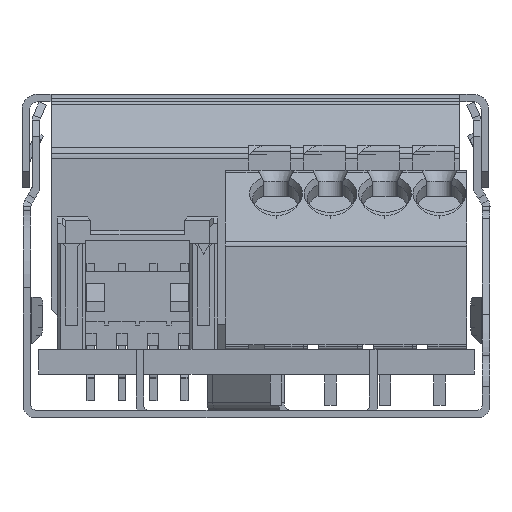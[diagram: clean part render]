
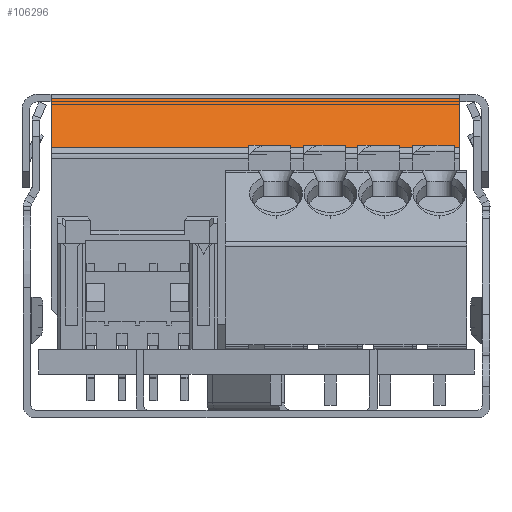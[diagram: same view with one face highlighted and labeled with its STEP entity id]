
A CAD part, front view. The second image highlights one B-rep face of the part: STEP entity #106296.
In plain terms, the highlighted planar face has unit normal (0, -0.707, 0.707).
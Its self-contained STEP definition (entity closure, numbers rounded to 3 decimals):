
#102146 = PLANE('',#102147);
#102147 = AXIS2_PLACEMENT_3D('',#102148,#102149,#102150);
#102148 = CARTESIAN_POINT('',(92.34,19.758,
    235.981));
#102149 = DIRECTION('',(1.,0.,0.));
#102150 = DIRECTION('',(0.,1.,0.));
#103388 = CYLINDRICAL_SURFACE('',#103389,1.);
#103389 = AXIS2_PLACEMENT_3D('',#103390,#103391,#103392);
#103390 = CARTESIAN_POINT('',(92.34,19.763,
    235.785));
#103391 = DIRECTION('',(1.,0.,0.));
#103392 = DIRECTION('',(0.,1.,0.));
#103416 = PLANE('',#103417);
#103417 = AXIS2_PLACEMENT_3D('',#103418,#103419,#103420);
#103418 = CARTESIAN_POINT('',(118.61,19.758,
    235.981));
#103419 = DIRECTION('',(1.,0.,0.));
#103420 = DIRECTION('',(0.,1.,0.));
#105155 = VERTEX_POINT('',#105156);
#105156 = CARTESIAN_POINT('',(92.34,15.899,
    233.335));
#105175 = CYLINDRICAL_SURFACE('',#105176,1.);
#105176 = AXIS2_PLACEMENT_3D('',#105177,#105178,#105179);
#105177 = CARTESIAN_POINT('',(118.61,16.606,
    232.628));
#105178 = DIRECTION('',(-1.,0.,0.));
#105179 = DIRECTION('',(0.,0.,1.));
#105187 = EDGE_CURVE('',#105155,#105188,#105190,.T.);
#105188 = VERTEX_POINT('',#105189);
#105189 = CARTESIAN_POINT('',(92.34,19.056,
    236.492));
#105190 = SURFACE_CURVE('',#105191,(#105195,#105202),.PCURVE_S1.);
#105191 = LINE('',#105192,#105193);
#105192 = CARTESIAN_POINT('',(92.34,17.478,
    234.914));
#105193 = VECTOR('',#105194,1.);
#105194 = DIRECTION('',(0.,0.707,0.707
    ));
#105195 = PCURVE('',#102146,#105196);
#105196 = DEFINITIONAL_REPRESENTATION('',(#105197),#105201);
#105197 = LINE('',#105198,#105199);
#105198 = CARTESIAN_POINT('',(-2.281,-1.067));
#105199 = VECTOR('',#105200,1.);
#105200 = DIRECTION('',(0.707,0.707));
#105201 = ( GEOMETRIC_REPRESENTATION_CONTEXT(2) 
PARAMETRIC_REPRESENTATION_CONTEXT() REPRESENTATION_CONTEXT('2D SPACE',''
  ) );
#105202 = PCURVE('',#105203,#105208);
#105203 = PLANE('',#105204);
#105204 = AXIS2_PLACEMENT_3D('',#105205,#105206,#105207);
#105205 = CARTESIAN_POINT('',(119.136,19.271,
    236.707));
#105206 = DIRECTION('',(0.,-0.707,0.707));
#105207 = DIRECTION('',(-1.,0.,0.));
#105208 = DEFINITIONAL_REPRESENTATION('',(#105209),#105213);
#105209 = LINE('',#105210,#105211);
#105210 = CARTESIAN_POINT('',(26.796,2.537));
#105211 = VECTOR('',#105212,1.);
#105212 = DIRECTION('',(0.,-1.));
#105213 = ( GEOMETRIC_REPRESENTATION_CONTEXT(2) 
PARAMETRIC_REPRESENTATION_CONTEXT() REPRESENTATION_CONTEXT('2D SPACE',''
  ) );
#105247 = EDGE_CURVE('',#105248,#105188,#105250,.T.);
#105248 = VERTEX_POINT('',#105249);
#105249 = CARTESIAN_POINT('',(118.61,19.056,
    236.492));
#105250 = SURFACE_CURVE('',#105251,(#105255,#105262),.PCURVE_S1.);
#105251 = LINE('',#105252,#105253);
#105252 = CARTESIAN_POINT('',(105.475,19.056,
    236.492));
#105253 = VECTOR('',#105254,1.);
#105254 = DIRECTION('',(-1.,-0.,-0.));
#105255 = PCURVE('',#103388,#105256);
#105256 = DEFINITIONAL_REPRESENTATION('',(#105257),#105261);
#105257 = LINE('',#105258,#105259);
#105258 = CARTESIAN_POINT('',(2.356,13.135));
#105259 = VECTOR('',#105260,1.);
#105260 = DIRECTION('',(0.,-1.));
#105261 = ( GEOMETRIC_REPRESENTATION_CONTEXT(2) 
PARAMETRIC_REPRESENTATION_CONTEXT() REPRESENTATION_CONTEXT('2D SPACE',''
  ) );
#105262 = PCURVE('',#105203,#105263);
#105263 = DEFINITIONAL_REPRESENTATION('',(#105264),#105268);
#105264 = LINE('',#105265,#105266);
#105265 = CARTESIAN_POINT('',(13.661,0.304));
#105266 = VECTOR('',#105267,1.);
#105267 = DIRECTION('',(1.,0.));
#105268 = ( GEOMETRIC_REPRESENTATION_CONTEXT(2) 
PARAMETRIC_REPRESENTATION_CONTEXT() REPRESENTATION_CONTEXT('2D SPACE',''
  ) );
#105320 = EDGE_CURVE('',#105248,#105321,#105323,.T.);
#105321 = VERTEX_POINT('',#105322);
#105322 = CARTESIAN_POINT('',(118.61,15.899,
    233.335));
#105323 = SURFACE_CURVE('',#105324,(#105328,#105335),.PCURVE_S1.);
#105324 = LINE('',#105325,#105326);
#105325 = CARTESIAN_POINT('',(118.61,17.478,
    234.914));
#105326 = VECTOR('',#105327,1.);
#105327 = DIRECTION('',(0.,-0.707,
    -0.707));
#105328 = PCURVE('',#103416,#105329);
#105329 = DEFINITIONAL_REPRESENTATION('',(#105330),#105334);
#105330 = LINE('',#105331,#105332);
#105331 = CARTESIAN_POINT('',(-2.281,-1.067));
#105332 = VECTOR('',#105333,1.);
#105333 = DIRECTION('',(-0.707,-0.707));
#105334 = ( GEOMETRIC_REPRESENTATION_CONTEXT(2) 
PARAMETRIC_REPRESENTATION_CONTEXT() REPRESENTATION_CONTEXT('2D SPACE',''
  ) );
#105335 = PCURVE('',#105203,#105336);
#105336 = DEFINITIONAL_REPRESENTATION('',(#105337),#105341);
#105337 = LINE('',#105338,#105339);
#105338 = CARTESIAN_POINT('',(0.525,2.537));
#105339 = VECTOR('',#105340,1.);
#105340 = DIRECTION('',(0.,1.));
#105341 = ( GEOMETRIC_REPRESENTATION_CONTEXT(2) 
PARAMETRIC_REPRESENTATION_CONTEXT() REPRESENTATION_CONTEXT('2D SPACE',''
  ) );
#106296 = ADVANCED_FACE('',(#106297),#105203,.T.);
#106297 = FACE_BOUND('',#106298,.T.);
#106298 = EDGE_LOOP('',(#106299,#106300,#106301,#106322));
#106299 = ORIENTED_EDGE('',*,*,#105247,.T.);
#106300 = ORIENTED_EDGE('',*,*,#105187,.F.);
#106301 = ORIENTED_EDGE('',*,*,#106302,.F.);
#106302 = EDGE_CURVE('',#105321,#105155,#106303,.T.);
#106303 = SURFACE_CURVE('',#106304,(#106308,#106315),.PCURVE_S1.);
#106304 = LINE('',#106305,#106306);
#106305 = CARTESIAN_POINT('',(105.475,15.899,
    233.335));
#106306 = VECTOR('',#106307,1.);
#106307 = DIRECTION('',(-1.,0.,0.));
#106308 = PCURVE('',#105203,#106309);
#106309 = DEFINITIONAL_REPRESENTATION('',(#106310),#106314);
#106310 = LINE('',#106311,#106312);
#106311 = CARTESIAN_POINT('',(13.661,4.769));
#106312 = VECTOR('',#106313,1.);
#106313 = DIRECTION('',(1.,0.));
#106314 = ( GEOMETRIC_REPRESENTATION_CONTEXT(2) 
PARAMETRIC_REPRESENTATION_CONTEXT() REPRESENTATION_CONTEXT('2D SPACE',''
  ) );
#106315 = PCURVE('',#105175,#106316);
#106316 = DEFINITIONAL_REPRESENTATION('',(#106317),#106321);
#106317 = LINE('',#106318,#106319);
#106318 = CARTESIAN_POINT('',(5.498,13.135));
#106319 = VECTOR('',#106320,1.);
#106320 = DIRECTION('',(0.,1.));
#106321 = ( GEOMETRIC_REPRESENTATION_CONTEXT(2) 
PARAMETRIC_REPRESENTATION_CONTEXT() REPRESENTATION_CONTEXT('2D SPACE',''
  ) );
#106322 = ORIENTED_EDGE('',*,*,#105320,.F.);
